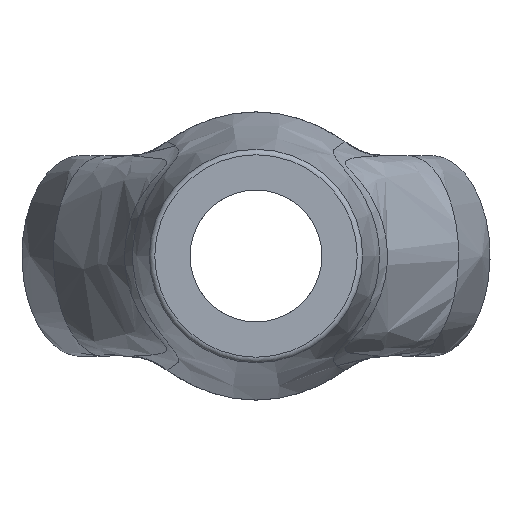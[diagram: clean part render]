
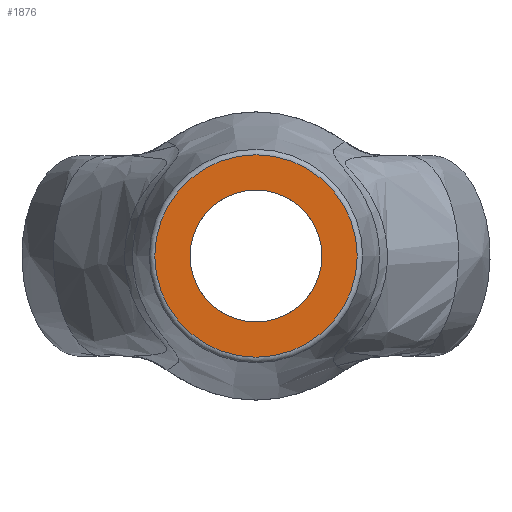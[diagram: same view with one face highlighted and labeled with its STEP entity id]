
A CAD part, left-side view. The second image highlights one B-rep face of the part: STEP entity #1876.
In plain terms, the highlighted planar face has unit normal (-1, 0, 0).
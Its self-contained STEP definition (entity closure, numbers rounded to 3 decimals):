
#33=FACE_BOUND('',#342,.T.);
#107=PLANE('',#2043);
#211=FACE_OUTER_BOUND('',#341,.T.);
#341=EDGE_LOOP('',(#1350,#1351));
#342=EDGE_LOOP('',(#1352,#1353));
#603=CIRCLE('',#2039,9.08);
#604=CIRCLE('',#2040,9.08);
#606=CIRCLE('',#2044,5.918);
#607=CIRCLE('',#2045,5.918);
#758=VERTEX_POINT('',#4704);
#759=VERTEX_POINT('',#4706);
#760=VERTEX_POINT('',#4713);
#761=VERTEX_POINT('',#4714);
#967=EDGE_CURVE('',#758,#759,#603,.T.);
#968=EDGE_CURVE('',#759,#758,#604,.T.);
#971=EDGE_CURVE('',#760,#761,#606,.T.);
#972=EDGE_CURVE('',#761,#760,#607,.T.);
#1350=ORIENTED_EDGE('',*,*,#968,.F.);
#1351=ORIENTED_EDGE('',*,*,#967,.F.);
#1352=ORIENTED_EDGE('',*,*,#971,.T.);
#1353=ORIENTED_EDGE('',*,*,#972,.T.);
#1876=ADVANCED_FACE('',(#211,#33),#107,.F.);
#2039=AXIS2_PLACEMENT_3D('',#4707,#2275,#2276);
#2040=AXIS2_PLACEMENT_3D('',#4708,#2277,#2278);
#2043=AXIS2_PLACEMENT_3D('',#4712,#2284,#2285);
#2044=AXIS2_PLACEMENT_3D('',#4715,#2286,#2287);
#2045=AXIS2_PLACEMENT_3D('',#4716,#2288,#2289);
#2275=DIRECTION('center_axis',(1.,0.,0.));
#2276=DIRECTION('ref_axis',(0.,-1.,0.));
#2277=DIRECTION('center_axis',(1.,0.,0.));
#2278=DIRECTION('ref_axis',(0.,-1.,0.));
#2284=DIRECTION('center_axis',(1.,0.,0.));
#2285=DIRECTION('ref_axis',(0.,0.,-1.));
#2286=DIRECTION('center_axis',(1.,0.,0.));
#2287=DIRECTION('ref_axis',(0.,0.,1.));
#2288=DIRECTION('center_axis',(1.,0.,0.));
#2289=DIRECTION('ref_axis',(0.,0.,1.));
#4704=CARTESIAN_POINT('',(-115.,0.,9.08));
#4706=CARTESIAN_POINT('',(-115.,9.08,0.));
#4707=CARTESIAN_POINT('Origin',(-115.,0.,0.));
#4708=CARTESIAN_POINT('Origin',(-115.,0.,0.));
#4712=CARTESIAN_POINT('Origin',(-115.,0.,0.));
#4713=CARTESIAN_POINT('',(-115.,0.,5.918));
#4714=CARTESIAN_POINT('',(-115.,0.,-5.918));
#4715=CARTESIAN_POINT('Origin',(-115.,0.,0.));
#4716=CARTESIAN_POINT('Origin',(-115.,0.,0.));
